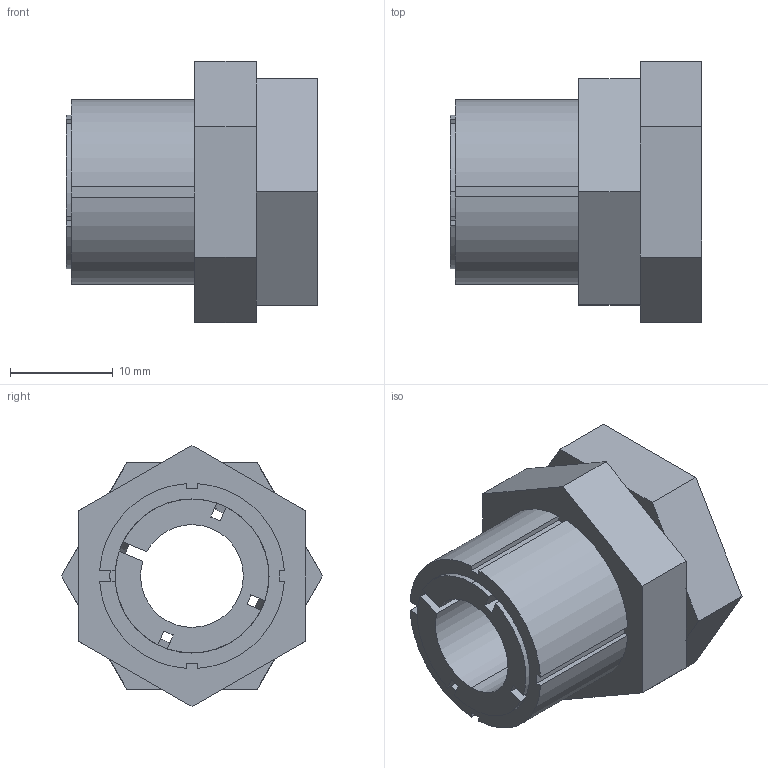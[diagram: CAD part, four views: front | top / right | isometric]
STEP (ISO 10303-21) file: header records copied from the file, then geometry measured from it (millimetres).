
FILE_DESCRIPTION (( 'STEP AP203' ), '1' );
FILE_NAME ('KBS 59 - 10 x 18.STEP', '2015-07-07T21:01:02', ( '' ), ( '' ), 'SwSTEP 2.0', 'SolidWorks 2010', '' );
FILE_SCHEMA (( 'CONFIG_CONTROL_DESIGN' ));
Length unit declared in the file: millimetre
Products named in the file (1): KBS 59 - 10 x 18
Bounding box: 24.5 x 25.4 x 25.4 mm (x, y, z)
Volume: 5934.9 mm3; surface area: 5909.4 mm2
Topology: 3 solids, 3 shells, 78 faces, 204 edges, 132 vertices
Faces by surface type: plane 56, cylinder 14, cone 8
Entity records: 2469 total; most frequent: CARTESIAN_POINT 451, ORIENTED_EDGE 408, DIRECTION 396, EDGE_CURVE 204, LINE 150, VECTOR 150, VERTEX_POINT 132, AXIS2_PLACEMENT_3D 123
